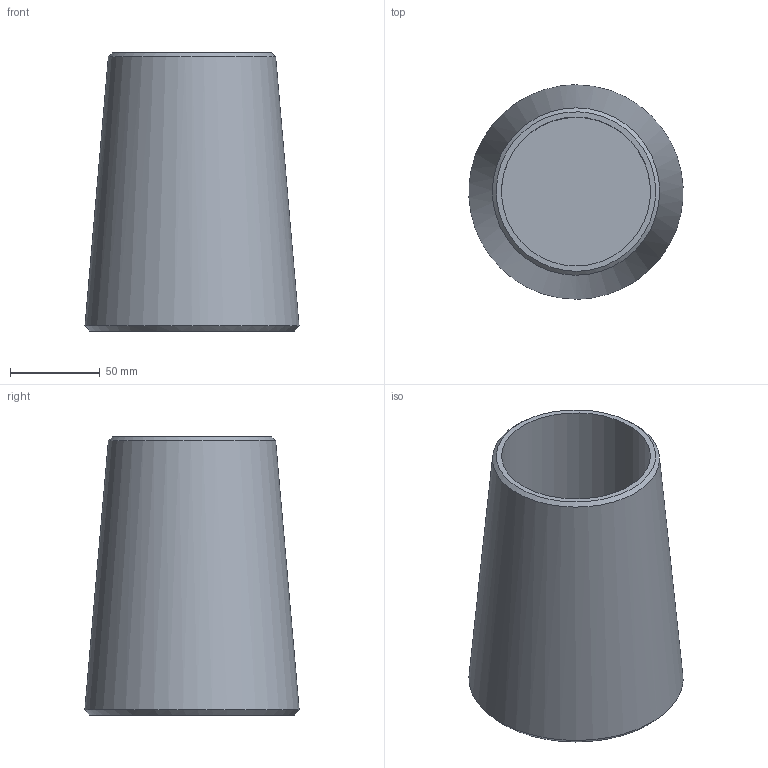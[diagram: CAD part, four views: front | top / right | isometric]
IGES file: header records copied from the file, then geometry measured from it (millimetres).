
Global section: file name: 520-080-KMU; native system: Autodesk Inventor 2016; preprocessor: unknown; author: BAYR; date: 20200618.123652; units: millimetre
Bounding box: 119.31 x 119.48 x 155 mm (x, y, z)
Volume: 762483.1 mm3; surface area: 99075.8 mm2
Topology: 1 solids, 1 shells, 7 faces, 14 edges, 10 vertices
Faces by surface type: bspline 7
